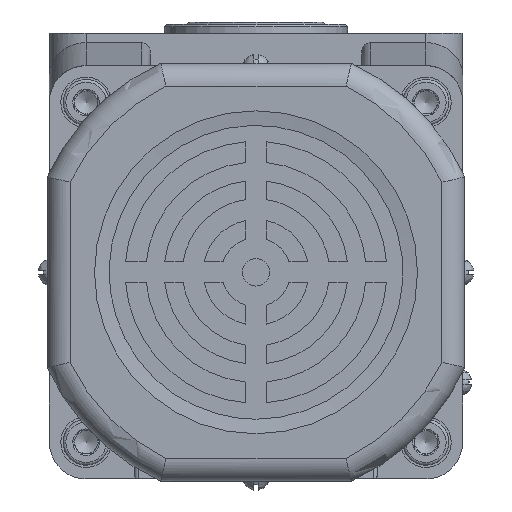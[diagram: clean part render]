
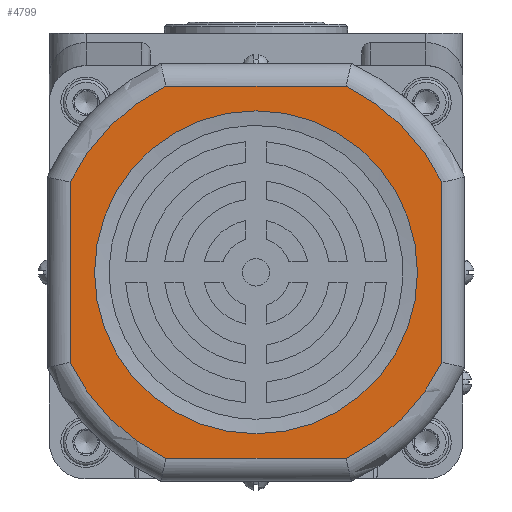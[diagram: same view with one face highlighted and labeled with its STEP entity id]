
A CAD part, front view. The second image highlights one B-rep face of the part: STEP entity #4799.
In plain terms, the highlighted planar face has unit normal (0, -1, 0).
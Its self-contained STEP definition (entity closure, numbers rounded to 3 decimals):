
#1338=LINE('',#22876,#2218);
#1341=LINE('',#22880,#2221);
#1343=LINE('',#22883,#2223);
#1345=LINE('',#22886,#2225);
#2218=VECTOR('',#18303,1.);
#2221=VECTOR('',#18308,1.);
#2223=VECTOR('',#18312,1.);
#2225=VECTOR('',#18316,1.);
#4799=ADVANCED_FACE('',(#5750,#5751),#5304,.F.);
#5304=PLANE('',#15240);
#5750=FACE_BOUND('',#6554,.T.);
#5751=FACE_BOUND('',#6555,.T.);
#6554=EDGE_LOOP('',(#9212,#9213,#9214,#9215,#9216,#9217,#9218,#9219));
#6555=EDGE_LOOP('',(#9220));
#9212=ORIENTED_EDGE('',*,*,#12739,.T.);
#9213=ORIENTED_EDGE('',*,*,#12729,.T.);
#9214=ORIENTED_EDGE('',*,*,#12732,.T.);
#9215=ORIENTED_EDGE('',*,*,#12717,.T.);
#9216=ORIENTED_EDGE('',*,*,#12735,.T.);
#9217=ORIENTED_EDGE('',*,*,#12721,.T.);
#9218=ORIENTED_EDGE('',*,*,#12737,.T.);
#9219=ORIENTED_EDGE('',*,*,#12725,.T.);
#9220=ORIENTED_EDGE('',*,*,#12740,.F.);
#11141=VERTEX_POINT('',#22764);
#11143=VERTEX_POINT('',#22767);
#11145=VERTEX_POINT('',#22795);
#11147=VERTEX_POINT('',#22798);
#11149=VERTEX_POINT('',#22826);
#11151=VERTEX_POINT('',#22829);
#11153=VERTEX_POINT('',#22857);
#11155=VERTEX_POINT('',#22860);
#11157=VERTEX_POINT('',#22889);
#12717=EDGE_CURVE('',#11143,#11141,#13817,.T.);
#12721=EDGE_CURVE('',#11147,#11145,#13819,.T.);
#12725=EDGE_CURVE('',#11151,#11149,#13821,.T.);
#12729=EDGE_CURVE('',#11155,#11153,#13823,.T.);
#12732=EDGE_CURVE('',#11153,#11143,#1338,.T.);
#12735=EDGE_CURVE('',#11141,#11147,#1341,.T.);
#12737=EDGE_CURVE('',#11145,#11151,#1343,.T.);
#12739=EDGE_CURVE('',#11149,#11155,#1345,.T.);
#12740=EDGE_CURVE('',#11157,#11157,#13825,.T.);
#13817=CIRCLE('',#15223,45.);
#13819=CIRCLE('',#15226,45.);
#13821=CIRCLE('',#15229,45.);
#13823=CIRCLE('',#15232,45.);
#13825=CIRCLE('',#15239,35.157);
#15223=AXIS2_PLACEMENT_3D('',#22766,#18279,#18280);
#15226=AXIS2_PLACEMENT_3D('',#22797,#18285,#18286);
#15229=AXIS2_PLACEMENT_3D('',#22828,#18291,#18292);
#15232=AXIS2_PLACEMENT_3D('',#22859,#18297,#18298);
#15239=AXIS2_PLACEMENT_3D('',#22888,#18319,#18320);
#15240=AXIS2_PLACEMENT_3D('',#22890,#18321,#18322);
#18279=DIRECTION('',(0.,-1.,0.));
#18280=DIRECTION('',(0.,0.,1.));
#18285=DIRECTION('',(0.,-1.,0.));
#18286=DIRECTION('',(0.,0.,1.));
#18291=DIRECTION('',(0.,-1.,0.));
#18292=DIRECTION('',(0.,0.,1.));
#18297=DIRECTION('',(0.,-1.,0.));
#18298=DIRECTION('',(0.,0.,1.));
#18303=DIRECTION('',(0.,0.,1.));
#18308=DIRECTION('',(-1.,0.,0.));
#18312=DIRECTION('',(0.,0.,-1.));
#18316=DIRECTION('',(1.,0.,0.));
#18319=DIRECTION('',(0.,-1.,0.));
#18320=DIRECTION('',(0.,0.,-1.));
#18321=DIRECTION('',(0.,1.,0.));
#18322=DIRECTION('',(0.,0.,1.));
#22764=CARTESIAN_POINT('',(19.615,-283.,-11.5));
#22766=CARTESIAN_POINT('',(0.,-283.,-52.));
#22767=CARTESIAN_POINT('',(40.5,-283.,-32.385));
#22795=CARTESIAN_POINT('',(-40.5,-283.,-32.385));
#22797=CARTESIAN_POINT('',(0.,-283.,-52.));
#22798=CARTESIAN_POINT('',(-19.615,-283.,-11.5));
#22826=CARTESIAN_POINT('',(-19.615,-283.,-92.5));
#22828=CARTESIAN_POINT('',(0.,-283.,-52.));
#22829=CARTESIAN_POINT('',(-40.5,-283.,-71.615));
#22857=CARTESIAN_POINT('',(40.5,-283.,-71.615));
#22859=CARTESIAN_POINT('',(0.,-283.,-52.));
#22860=CARTESIAN_POINT('',(19.615,-283.,-92.5));
#22876=CARTESIAN_POINT('',(40.5,-283.,-31.27));
#22880=CARTESIAN_POINT('',(-20.73,-283.,-11.5));
#22883=CARTESIAN_POINT('',(-40.5,-283.,-72.73));
#22886=CARTESIAN_POINT('',(20.73,-283.,-92.5));
#22888=CARTESIAN_POINT('',(0.,-283.,-52.));
#22889=CARTESIAN_POINT('',(0.,-283.,-87.157));
#22890=CARTESIAN_POINT('',(45.457,-283.,-52.));
